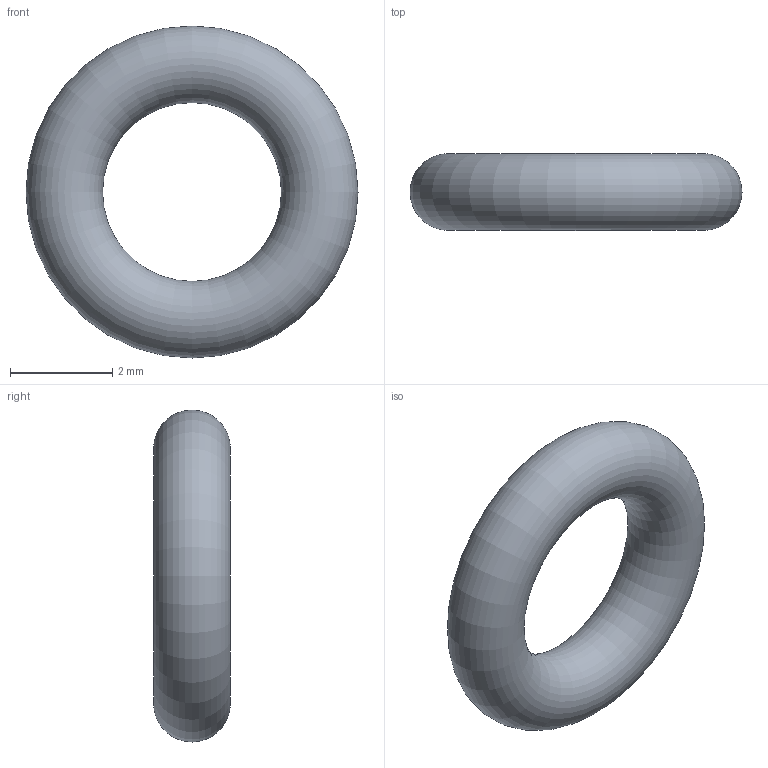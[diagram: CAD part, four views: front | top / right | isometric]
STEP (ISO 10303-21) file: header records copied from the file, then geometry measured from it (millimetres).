
FILE_DESCRIPTION( ( 'STEP AP203' ), '1' );
FILE_NAME( 'C:/Temp/Ganter_Step_05_03_2020/data/3_5/or638/O-Ring OR638-3.50-1.50-70.stp', '2020-03-12T13:44:16', ( 'License CC BY-ND 4.0' ), ( 'CADENAS' ), ' ', 'PARTsolutions', ' ' );
FILE_SCHEMA( ( 'CONFIG_CONTROL_DESIGN' ) );
Length unit declared in the file: millimetre
Products named in the file (1): _O-Ring OR638-3.50-1.50-70
Bounding box: 6.5 x 1.5 x 6.5 mm (x, y, z)
Volume: 27.8 mm3; surface area: 74 mm2
Topology: 1 solids, 1 shells, 1 faces, 2 edges, 1 vertices
Faces by surface type: torus 1
Entity records: 62 total; most frequent: CC_DESIGN_PERSON_AND_ORGANIZATION_ASSIGNMENT 5, PERSON_AND_ORGANIZATION_ROLE 4, DIRECTION 4, CARTESIAN_POINT 3, DATE_TIME_ROLE 2, CC_DESIGN_DATE_AND_TIME_ASSIGNMENT 2, AXIS2_PLACEMENT_3D 2, DIMENSIONAL_EXPONENTS 2
